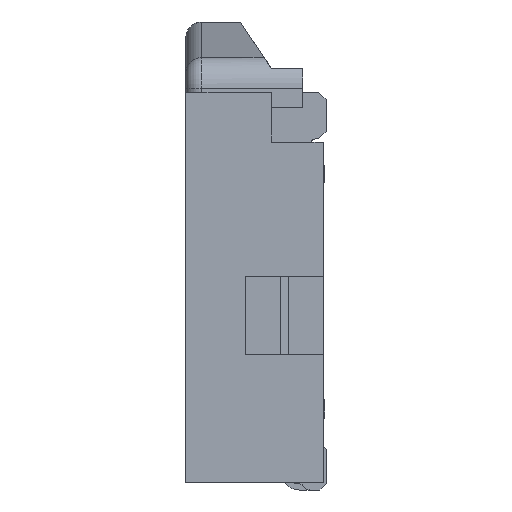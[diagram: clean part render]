
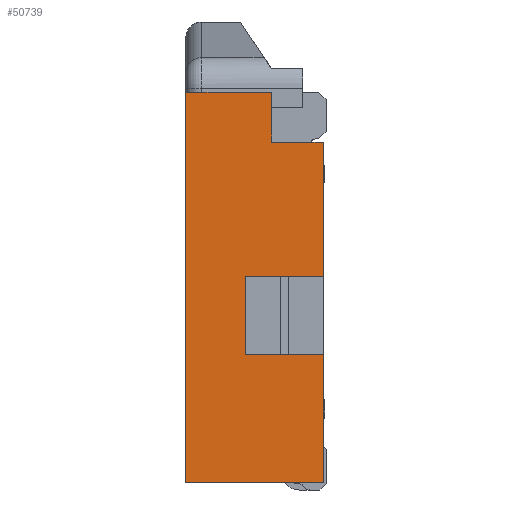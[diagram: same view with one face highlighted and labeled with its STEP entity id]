
A CAD part, left-side view. The second image highlights one B-rep face of the part: STEP entity #50739.
In plain terms, the highlighted planar face has unit normal (-1, 0, 0).
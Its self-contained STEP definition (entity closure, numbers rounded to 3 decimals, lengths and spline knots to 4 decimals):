
#2167 = VERTEX_POINT ( 'NONE', #51845 ) ;
#2174 = EDGE_CURVE ( 'NONE', #93922, #2167, #51994, .T. ) ;
#18720 = CARTESIAN_POINT ( 'NONE',  ( -5.4, 0.9, -2.4 ) ) ;
#18729 = DIRECTION ( 'NONE',  ( 0., 0., 1. ) ) ;
#18748 = DIRECTION ( 'NONE',  ( 1., 0., 0. ) ) ;
#19238 = CARTESIAN_POINT ( 'NONE',  ( -5.4, 0.35, -0.32 ) ) ;
#19280 = FACE_OUTER_BOUND ( 'NONE', #48300, .T. ) ;
#19281 = PLANE ( 'NONE',  #19295 ) ;
#19295 = AXIS2_PLACEMENT_3D ( 'NONE', #18720, #18748, #18729 ) ;
#19520 = DIRECTION ( 'NONE',  ( 0., 0., -1. ) ) ;
#19521 = VECTOR ( 'NONE', #19520, 1000. ) ;
#19522 = LINE ( 'NONE', #19532, #19521 ) ;
#19532 = CARTESIAN_POINT ( 'NONE',  ( -5.4, 0.02, -2.5 ) ) ;
#19546 = LINE ( 'NONE', #19550, #19553 ) ;
#19550 = CARTESIAN_POINT ( 'NONE',  ( -5.4, 0.9, 0. ) ) ;
#19553 = VECTOR ( 'NONE', #19605, 1000. ) ;
#19554 = VECTOR ( 'NONE', #19566, 1000. ) ;
#19557 = LINE ( 'NONE', #19570, #19554 ) ;
#19566 = DIRECTION ( 'NONE',  ( 0., 0., -1. ) ) ;
#19567 = CARTESIAN_POINT ( 'NONE',  ( -5.4, 0.02, -0.32 ) ) ;
#19570 = CARTESIAN_POINT ( 'NONE',  ( -5.4, 0.02, -2.5 ) ) ;
#19580 = DIRECTION ( 'NONE',  ( 0., 0., 1. ) ) ;
#19581 = VECTOR ( 'NONE', #19580, 1000. ) ;
#19582 = LINE ( 'NONE', #19587, #19581 ) ;
#19587 = CARTESIAN_POINT ( 'NONE',  ( -5.4, 0.35, 0. ) ) ;
#19605 = DIRECTION ( 'NONE',  ( 0., 0., 1. ) ) ;
#19682 = DIRECTION ( 'NONE',  ( 0., 1., 0. ) ) ;
#19683 = VECTOR ( 'NONE', #19682, 1000. ) ;
#19684 = CARTESIAN_POINT ( 'NONE',  ( -5.4, 0.02, -0.32 ) ) ;
#19685 = LINE ( 'NONE', #19684, #19683 ) ;
#32474 = CARTESIAN_POINT ( 'NONE',  ( -5.4, 0.9, 0. ) ) ;
#32544 = CARTESIAN_POINT ( 'NONE',  ( -5.4, 0.35, 0. ) ) ;
#32556 = DIRECTION ( 'NONE',  ( 0., -1., 0. ) ) ;
#32557 = VECTOR ( 'NONE', #32556, 1000. ) ;
#32558 = CARTESIAN_POINT ( 'NONE',  ( -5.4, 0.9, 0. ) ) ;
#32560 = LINE ( 'NONE', #32558, #32557 ) ;
#45659 = VERTEX_POINT ( 'NONE', #19238 ) ;
#46987 = ORIENTED_EDGE ( 'NONE', *, *, #50772, .T. ) ;
#48300 = EDGE_LOOP ( 'NONE', ( #50714, #48451, #46987, #50840, #49785, #53041, #49904, #51359, #52822, #51410 ) ) ;
#48451 = ORIENTED_EDGE ( 'NONE', *, *, #49077, .F. ) ;
#48660 = EDGE_CURVE ( 'NONE', #93907, #90051, #19522, .T. ) ;
#49035 = VERTEX_POINT ( 'NONE', #19567 ) ;
#49077 = EDGE_CURVE ( 'NONE', #49035, #2167, #19557, .T. ) ;
#49644 = EDGE_CURVE ( 'NONE', #90059, #82832, #19546, .T. ) ;
#49717 = EDGE_CURVE ( 'NONE', #45659, #82854, #19582, .T. ) ;
#49785 = ORIENTED_EDGE ( 'NONE', *, *, #82849, .F. ) ;
#49904 = ORIENTED_EDGE ( 'NONE', *, *, #90115, .F. ) ;
#50714 = ORIENTED_EDGE ( 'NONE', *, *, #2174, .T. ) ;
#50739 = ADVANCED_FACE ( 'NONE', ( #19280 ), #19281, .F. ) ;
#50772 = EDGE_CURVE ( 'NONE', #49035, #45659, #19685, .T. ) ;
#50840 = ORIENTED_EDGE ( 'NONE', *, *, #49717, .T. ) ;
#51359 = ORIENTED_EDGE ( 'NONE', *, *, #48660, .F. ) ;
#51410 = ORIENTED_EDGE ( 'NONE', *, *, #93846, .F. ) ;
#51845 = CARTESIAN_POINT ( 'NONE',  ( -5.4, 0.02, -1.18 ) ) ;
#51989 = DIRECTION ( 'NONE',  ( 0., -1., 0. ) ) ;
#51990 = VECTOR ( 'NONE', #51989, 1000. ) ;
#51993 = CARTESIAN_POINT ( 'NONE',  ( -5.4, 0.52, -1.18 ) ) ;
#51994 = LINE ( 'NONE', #51993, #51990 ) ;
#52822 = ORIENTED_EDGE ( 'NONE', *, *, #93909, .F. ) ;
#53041 = ORIENTED_EDGE ( 'NONE', *, *, #49644, .F. ) ;
#58925 = CARTESIAN_POINT ( 'NONE',  ( -5.4, 0.02, -2.5 ) ) ;
#58994 = CARTESIAN_POINT ( 'NONE',  ( -5.4, 0.9, -2.5 ) ) ;
#59171 = DIRECTION ( 'NONE',  ( 0., 1., 0. ) ) ;
#59172 = VECTOR ( 'NONE', #59171, 1000. ) ;
#59174 = CARTESIAN_POINT ( 'NONE',  ( -5.4, 0.02, -2.5 ) ) ;
#59176 = LINE ( 'NONE', #59174, #59172 ) ;
#72914 = CARTESIAN_POINT ( 'NONE',  ( -5.4, 0.52, -1.68 ) ) ;
#72928 = CARTESIAN_POINT ( 'NONE',  ( -5.4, 0.52, -1.18 ) ) ;
#72929 = LINE ( 'NONE', #72928, #72976 ) ;
#72975 = DIRECTION ( 'NONE',  ( 0., 0., -1. ) ) ;
#72976 = VECTOR ( 'NONE', #72975, 1000. ) ;
#73007 = LINE ( 'NONE', #73065, #73064 ) ;
#73027 = CARTESIAN_POINT ( 'NONE',  ( -5.4, 0.02, -1.68 ) ) ;
#73048 = CARTESIAN_POINT ( 'NONE',  ( -5.4, 0.52, -1.18 ) ) ;
#73063 = DIRECTION ( 'NONE',  ( 0., -1., 0. ) ) ;
#73064 = VECTOR ( 'NONE', #73063, 1000. ) ;
#73065 = CARTESIAN_POINT ( 'NONE',  ( -5.4, 0.52, -1.68 ) ) ;
#82832 = VERTEX_POINT ( 'NONE', #32474 ) ;
#82849 = EDGE_CURVE ( 'NONE', #82832, #82854, #32560, .T. ) ;
#82854 = VERTEX_POINT ( 'NONE', #32544 ) ;
#90051 = VERTEX_POINT ( 'NONE', #58925 ) ;
#90059 = VERTEX_POINT ( 'NONE', #58994 ) ;
#90115 = EDGE_CURVE ( 'NONE', #90051, #90059, #59176, .T. ) ;
#93846 = EDGE_CURVE ( 'NONE', #93922, #93857, #72929, .T. ) ;
#93857 = VERTEX_POINT ( 'NONE', #72914 ) ;
#93907 = VERTEX_POINT ( 'NONE', #73027 ) ;
#93909 = EDGE_CURVE ( 'NONE', #93857, #93907, #73007, .T. ) ;
#93922 = VERTEX_POINT ( 'NONE', #73048 ) ;
